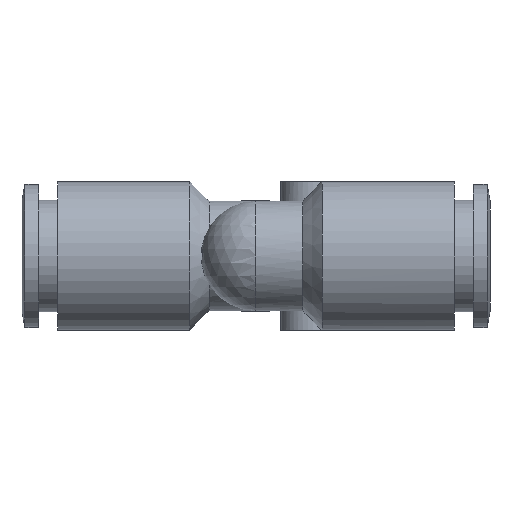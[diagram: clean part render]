
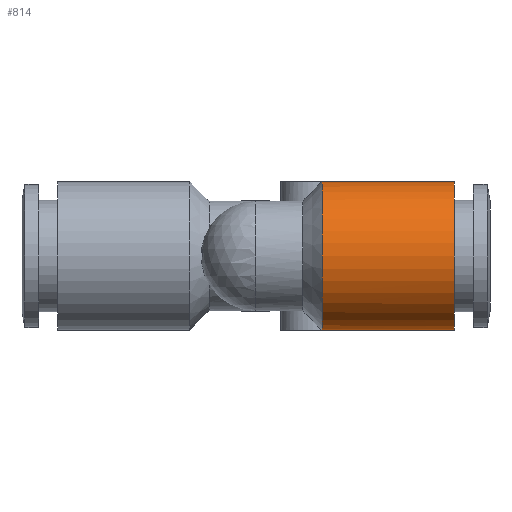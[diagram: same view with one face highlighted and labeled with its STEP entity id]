
A CAD part, left-side view. The second image highlights one B-rep face of the part: STEP entity #814.
In plain terms, the highlighted cylindrical face has radius 6.75 mm (diameter 13.5 mm), a full revolution.
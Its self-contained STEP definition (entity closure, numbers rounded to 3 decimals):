
#124=CARTESIAN_POINT('',(0.,-2.75,0.0));
#125=VERTEX_POINT('',#124);
#211=CARTESIAN_POINT('',(-2.562,-1.,5.293));
#212=VERTEX_POINT('',#211);
#223=CARTESIAN_POINT('',(0.,-2.75,0.));
#224=CARTESIAN_POINT('',(0.,-2.75,0.625));
#225=CARTESIAN_POINT('',(-0.09,-2.754,1.269));
#226=CARTESIAN_POINT('',(-0.267,-2.737,1.879));
#227=CARTESIAN_POINT('',(-0.454,-2.719,2.524));
#228=CARTESIAN_POINT('',(-0.738,-2.674,3.131));
#229=CARTESIAN_POINT('',(-1.075,-2.531,3.655));
#230=CARTESIAN_POINT('',(-1.316,-2.429,4.029));
#231=CARTESIAN_POINT('',(-1.584,-2.276,4.361));
#232=CARTESIAN_POINT('',(-1.848,-2.037,4.64));
#233=CARTESIAN_POINT('',(-2.007,-1.892,4.808));
#234=CARTESIAN_POINT('',(-2.165,-1.716,4.958));
#235=CARTESIAN_POINT('',(-2.309,-1.493,5.084));
#236=CARTESIAN_POINT('',(-2.405,-1.345,5.167));
#237=CARTESIAN_POINT('',(-2.492,-1.178,5.238));
#238=CARTESIAN_POINT('',(-2.562,-1.,5.293));
#239=B_SPLINE_CURVE_WITH_KNOTS('',3,(#223,#224,#225,#226,#227,#228,#229,#230,#231,#232,#233,#234,#235,#236,#237,#238),.UNSPECIFIED.,.F.,.U.,(4,3,3,3,3,4),(1.537,1.724,1.922,2.064,2.149,2.205),.UNSPECIFIED.);
#240=EDGE_CURVE('',#125,#212,#239,.T.);
#305=CARTESIAN_POINT('',(-2.562,-1.,-5.293));
#306=VERTEX_POINT('',#305);
#307=CARTESIAN_POINT('',(-2.562,-1.,-5.293));
#308=CARTESIAN_POINT('',(-2.455,-1.274,-5.209));
#309=CARTESIAN_POINT('',(-2.306,-1.519,-5.085));
#310=CARTESIAN_POINT('',(-2.15,-1.714,-4.94));
#311=CARTESIAN_POINT('',(-1.893,-2.037,-4.701));
#312=CARTESIAN_POINT('',(-1.615,-2.246,-4.402));
#313=CARTESIAN_POINT('',(-1.354,-2.393,-4.056));
#314=CARTESIAN_POINT('',(-0.995,-2.597,-3.578));
#315=CARTESIAN_POINT('',(-0.671,-2.678,-3.008));
#316=CARTESIAN_POINT('',(-0.436,-2.715,-2.386));
#317=CARTESIAN_POINT('',(-0.219,-2.75,-1.812));
#318=CARTESIAN_POINT('',(-0.078,-2.749,-1.196));
#319=CARTESIAN_POINT('',(-0.025,-2.75,-0.581));
#320=CARTESIAN_POINT('',(-0.008,-2.75,-0.386));
#321=CARTESIAN_POINT('',(0.,-2.75,-0.192));
#322=CARTESIAN_POINT('',(0.,-2.75,0.));
#323=B_SPLINE_CURVE_WITH_KNOTS('',3,(#307,#308,#309,#310,#311,#312,#313,#314,#315,#316,#317,#318,#319,#320,#321,#322),.UNSPECIFIED.,.F.,.U.,(4,3,3,3,3,4),(0.868,0.955,1.098,1.296,1.479,1.537),.UNSPECIFIED.);
#324=EDGE_CURVE('',#306,#125,#323,.T.);
#577=CARTESIAN_POINT('',(0.0,-13.,0.0));
#578=VERTEX_POINT('',#577);
#579=CARTESIAN_POINT('',(0.,-2.75,0.0));
#580=DIRECTION('',(0.0,-1.0,0.0));
#581=VECTOR('',#580,10.25);
#582=LINE('',#579,#581);
#583=EDGE_CURVE('',#125,#578,#582,.T.);
#592=CARTESIAN_POINT('',(0.,-2.75,0.0));
#593=DIRECTION('',(0.0,-1.0,0.0));
#594=VECTOR('',#593,10.25);
#595=LINE('',#592,#594);
#596=EDGE_CURVE('',#125,#578,#595,.T.);
#785=CARTESIAN_POINT('',(-6.75,-1.,0.0));
#786=DIRECTION('',(0.0,-1.0,0.0));
#787=DIRECTION('',(1.0,0.0,0.0));
#788=AXIS2_PLACEMENT_3D('',#785,#786,#787);
#789=CIRCLE('',#788,6.75);
#790=EDGE_CURVE('',#212,#306,#789,.T.);
#795=CARTESIAN_POINT('',(-6.75,-7.,0.0));
#796=DIRECTION('',(0.,-1.0,0.0));
#797=DIRECTION('',(1.0,0.0,0.0));
#798=AXIS2_PLACEMENT_3D('',#795,#796,#797);
#799=CYLINDRICAL_SURFACE('',#798,6.75);
#800=ORIENTED_EDGE('',*,*,#240,.T.);
#801=ORIENTED_EDGE('',*,*,#790,.T.);
#802=ORIENTED_EDGE('',*,*,#324,.T.);
#803=ORIENTED_EDGE('',*,*,#596,.T.);
#804=CARTESIAN_POINT('',(-6.75,-13.,0.0));
#805=DIRECTION('',(0.0,-1.0,0.0));
#806=DIRECTION('',(1.0,0.0,0.0));
#807=AXIS2_PLACEMENT_3D('',#804,#805,#806);
#808=CIRCLE('',#807,6.75);
#809=EDGE_CURVE('',#578,#578,#808,.T.);
#810=ORIENTED_EDGE('',*,*,#809,.F.);
#811=ORIENTED_EDGE('',*,*,#583,.F.);
#812=EDGE_LOOP('',(#800,#801,#802,#803,#810,#811));
#813=FACE_OUTER_BOUND('',#812,.T.);
#814=ADVANCED_FACE('',(#813),#799,.T.);
